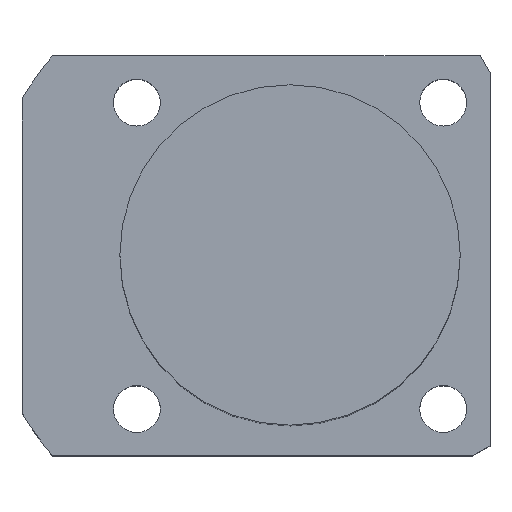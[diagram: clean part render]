
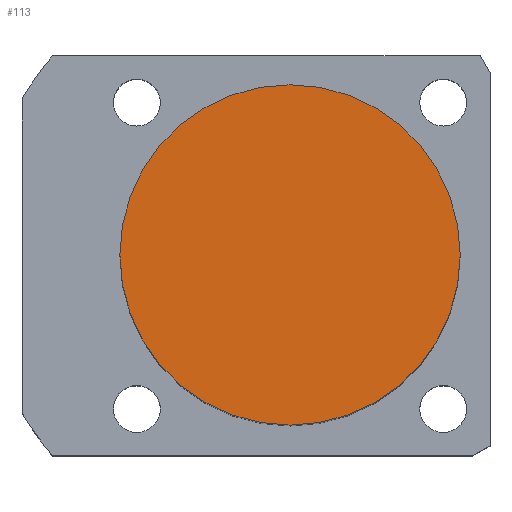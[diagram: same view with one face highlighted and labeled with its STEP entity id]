
A CAD part, top view. The second image highlights one B-rep face of the part: STEP entity #113.
In plain terms, the highlighted planar face has unit normal (0, 0, 1).
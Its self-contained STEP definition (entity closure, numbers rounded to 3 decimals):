
#113 = ADVANCED_FACE ( 'NONE', ( #167 ), #997, .T. ) ;
#167 = FACE_OUTER_BOUND ( 'NONE', #1181, .T. ) ;
#344 = AXIS2_PLACEMENT_3D ( 'NONE', #500, #1762, #1317 ) ;
#467 = CARTESIAN_POINT ( 'NONE',  ( -20., 0., 71.5 ) ) ;
#500 = CARTESIAN_POINT ( 'NONE',  ( 0., 0., 71.5 ) ) ;
#520 = EDGE_CURVE ( 'NONE', #1168, #1263, #748, .T. ) ;
#599 = ORIENTED_EDGE ( 'NONE', *, *, #771, .T. ) ;
#748 = CIRCLE ( 'NONE', #763, 20. ) ;
#763 = AXIS2_PLACEMENT_3D ( 'NONE', #1401, #871, #1426 ) ;
#771 = EDGE_CURVE ( 'NONE', #1263, #1168, #1186, .T. ) ;
#871 = DIRECTION ( 'NONE',  ( 0., 0., 1. ) ) ;
#886 = DIRECTION ( 'NONE',  ( 0., 0., 1. ) ) ;
#997 = PLANE ( 'NONE',  #1123 ) ;
#1005 = DIRECTION ( 'NONE',  ( 1., 0., 0. ) ) ;
#1123 = AXIS2_PLACEMENT_3D ( 'NONE', #1157, #886, #1005 ) ;
#1157 = CARTESIAN_POINT ( 'NONE',  ( 0., 0., 71.5 ) ) ;
#1168 = VERTEX_POINT ( 'NONE', #467 ) ;
#1181 = EDGE_LOOP ( 'NONE', ( #1421, #599 ) ) ;
#1186 = CIRCLE ( 'NONE', #344, 20. ) ;
#1263 = VERTEX_POINT ( 'NONE', #1605 ) ;
#1317 = DIRECTION ( 'NONE',  ( 1., 0., 0. ) ) ;
#1401 = CARTESIAN_POINT ( 'NONE',  ( 0., 0., 71.5 ) ) ;
#1421 = ORIENTED_EDGE ( 'NONE', *, *, #520, .T. ) ;
#1426 = DIRECTION ( 'NONE',  ( 1., 0., 0. ) ) ;
#1605 = CARTESIAN_POINT ( 'NONE',  ( 20., 0., 71.5 ) ) ;
#1762 = DIRECTION ( 'NONE',  ( 0., 0., 1. ) ) ;
